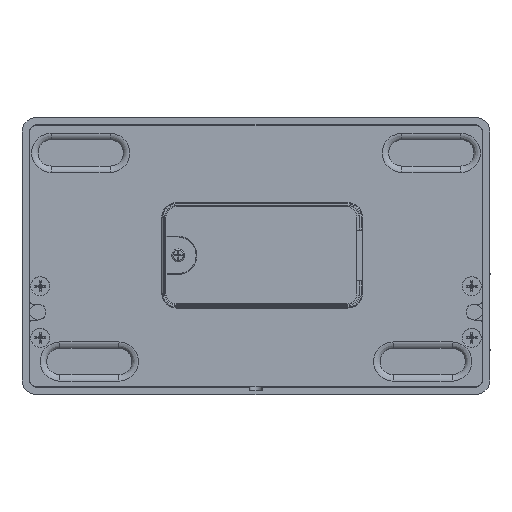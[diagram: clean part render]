
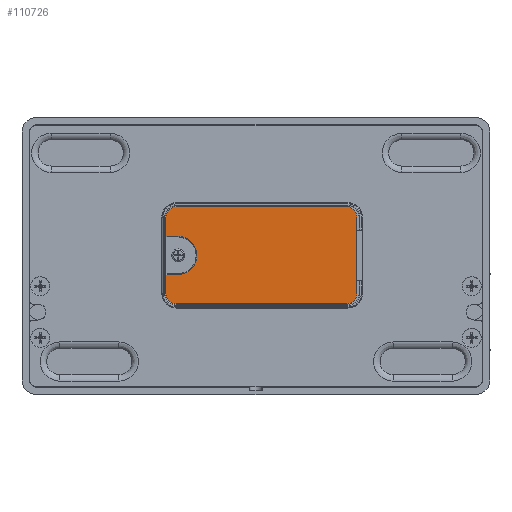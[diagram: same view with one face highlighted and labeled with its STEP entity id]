
A CAD part, front view. The second image highlights one B-rep face of the part: STEP entity #110726.
In plain terms, the highlighted planar face has unit normal (0, -1, 0).
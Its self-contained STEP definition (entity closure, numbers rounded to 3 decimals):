
#3361 = CARTESIAN_POINT ( 'NONE',  ( -32.35, -9.7, -68.99 ) ) ;
#3900 = CARTESIAN_POINT ( 'NONE',  ( -36.75, -9.7, -73.19 ) ) ;
#5102 = VECTOR ( 'NONE', #123197, 1000. ) ;
#5278 = VECTOR ( 'NONE', #91164, 1000. ) ;
#5599 = DIRECTION ( 'NONE',  ( -1., 0., 0. ) ) ;
#5646 = EDGE_CURVE ( 'NONE', #21998, #64694, #36560, .T. ) ;
#6575 = ORIENTED_EDGE ( 'NONE', *, *, #92670, .F. ) ;
#6804 = ORIENTED_EDGE ( 'NONE', *, *, #42980, .F. ) ;
#8957 = CARTESIAN_POINT ( 'NONE',  ( -36.55, -9.7, -37.99 ) ) ;
#9933 = CARTESIAN_POINT ( 'NONE',  ( -36.55, -9.7, -73.39 ) ) ;
#10432 = CARTESIAN_POINT ( 'NONE',  ( -31.8, -9.7, -61.29 ) ) ;
#13384 = CIRCLE ( 'NONE', #51661, 4.2 ) ;
#16926 = EDGE_CURVE ( 'NONE', #70286, #35434, #95275, .T. ) ;
#17009 = LINE ( 'NONE', #31813, #101950 ) ;
#17360 = CARTESIAN_POINT ( 'NONE',  ( -31.8, -9.7, -45.69 ) ) ;
#21385 = VECTOR ( 'NONE', #48121, 1000. ) ;
#21793 = DIRECTION ( 'NONE',  ( 0., 0., -1. ) ) ;
#21802 = VECTOR ( 'NONE', #104514, 1000. ) ;
#21915 = CARTESIAN_POINT ( 'NONE',  ( 36.75, -9.7, -33.79 ) ) ;
#21998 = VERTEX_POINT ( 'NONE', #8957 ) ;
#22350 = CARTESIAN_POINT ( 'NONE',  ( -36.55, -9.7, -68.99 ) ) ;
#24537 = ORIENTED_EDGE ( 'NONE', *, *, #56239, .F. ) ;
#26786 = FACE_OUTER_BOUND ( 'NONE', #102859, .T. ) ;
#27343 = PLANE ( 'NONE',  #32568 ) ;
#28506 = ORIENTED_EDGE ( 'NONE', *, *, #79420, .F. ) ;
#29890 = DIRECTION ( 'NONE',  ( 0., 1., 0. ) ) ;
#30348 = CARTESIAN_POINT ( 'NONE',  ( -36.55, -9.7, -45.69 ) ) ;
#31813 = CARTESIAN_POINT ( 'NONE',  ( -36.75, -9.7, -33.79 ) ) ;
#32568 = AXIS2_PLACEMENT_3D ( 'NONE', #128485, #138177, #5599 ) ;
#35434 = VERTEX_POINT ( 'NONE', #110281 ) ;
#36560 = CIRCLE ( 'NONE', #69028, 4.2 ) ;
#37724 = DIRECTION ( 'NONE',  ( 0., 1., 0. ) ) ;
#37905 = CARTESIAN_POINT ( 'NONE',  ( -31.8, -9.7, -61.29 ) ) ;
#38632 = CARTESIAN_POINT ( 'NONE',  ( -36.75, -9.7, -45.69 ) ) ;
#41103 = DIRECTION ( 'NONE',  ( 1., 0., 0. ) ) ;
#42980 = EDGE_CURVE ( 'NONE', #48858, #84079, #126889, .T. ) ;
#45937 = EDGE_CURVE ( 'NONE', #35434, #66301, #112684, .T. ) ;
#47660 = CARTESIAN_POINT ( 'NONE',  ( -36.55, -9.7, -73.39 ) ) ;
#47789 = CARTESIAN_POINT ( 'NONE',  ( 36.75, -9.7, -37.99 ) ) ;
#48121 = DIRECTION ( 'NONE',  ( 0., 0., 1. ) ) ;
#48671 = ORIENTED_EDGE ( 'NONE', *, *, #119675, .F. ) ;
#48724 = DIRECTION ( 'NONE',  ( 1., 0., 0. ) ) ;
#48858 = VERTEX_POINT ( 'NONE', #21915 ) ;
#49334 = EDGE_CURVE ( 'NONE', #84079, #113068, #142865, .T. ) ;
#49910 = ORIENTED_EDGE ( 'NONE', *, *, #104995, .F. ) ;
#51661 = AXIS2_PLACEMENT_3D ( 'NONE', #3361, #37724, #60524 ) ;
#52374 = CARTESIAN_POINT ( 'NONE',  ( -24., -9.7, -53.49 ) ) ;
#54357 = LINE ( 'NONE', #3900, #90797 ) ;
#54610 = VECTOR ( 'NONE', #21793, 1000. ) ;
#55711 = CARTESIAN_POINT ( 'NONE',  ( 40.95, -9.7, -73.39 ) ) ;
#56239 = EDGE_CURVE ( 'NONE', #57175, #70286, #13384, .T. ) ;
#56551 = VERTEX_POINT ( 'NONE', #30348 ) ;
#57175 = VERTEX_POINT ( 'NONE', #117197 ) ;
#58758 = CIRCLE ( 'NONE', #128392, 4.2 ) ;
#60524 = DIRECTION ( 'NONE',  ( 1., 0., 0. ) ) ;
#61995 = CARTESIAN_POINT ( 'NONE',  ( 36.75, -9.7, -68.99 ) ) ;
#63064 = VERTEX_POINT ( 'NONE', #68983 ) ;
#64050 = CARTESIAN_POINT ( 'NONE',  ( -24., -9.7, -58.059 ) ) ;
#64694 = VERTEX_POINT ( 'NONE', #79322 ) ;
#66301 = VERTEX_POINT ( 'NONE', #10432 ) ;
#66515 = LINE ( 'NONE', #47660, #21385 ) ;
#68085 = ORIENTED_EDGE ( 'NONE', *, *, #90663, .F. ) ;
#68983 = CARTESIAN_POINT ( 'NONE',  ( -31.8, -9.7, -45.69 ) ) ;
#69028 = AXIS2_PLACEMENT_3D ( 'NONE', #107430, #29890, #41103 ) ;
#69856 = DIRECTION ( 'NONE',  ( -1., 0., 0. ) ) ;
#70286 = VERTEX_POINT ( 'NONE', #22350 ) ;
#75582 = AXIS2_PLACEMENT_3D ( 'NONE', #47789, #90420, #48724 ) ;
#79322 = CARTESIAN_POINT ( 'NONE',  ( -32.35, -9.7, -33.79 ) ) ;
#79420 = EDGE_CURVE ( 'NONE', #113068, #143544, #58758, .T. ) ;
#79762 = ORIENTED_EDGE ( 'NONE', *, *, #45937, .F. ) ;
#80437 = ORIENTED_EDGE ( 'NONE', *, *, #84880, .F. ) ;
#82503 = CARTESIAN_POINT ( 'NONE',  ( -27.231, -9.7, -61.29 ) ) ;
#83343 = VERTEX_POINT ( 'NONE', #88628 ) ;
#84079 = VERTEX_POINT ( 'NONE', #135681 ) ;
#84252 = CARTESIAN_POINT ( 'NONE',  ( -24., -9.7, -48.921 ) ) ;
#84880 = EDGE_CURVE ( 'NONE', #64694, #48858, #17009, .T. ) ;
#85807 = CARTESIAN_POINT ( 'NONE',  ( 36.75, -9.7, -73.19 ) ) ;
#86099 = LINE ( 'NONE', #38632, #21802 ) ;
#88628 = CARTESIAN_POINT ( 'NONE',  ( -24., -9.7, -53.49 ) ) ;
#89229 = CARTESIAN_POINT ( 'NONE',  ( -36.75, -9.7, -61.29 ) ) ;
#90420 = DIRECTION ( 'NONE',  ( 0., 1., 0. ) ) ;
#90663 = EDGE_CURVE ( 'NONE', #63064, #56551, #86099, .T. ) ;
#90797 = VECTOR ( 'NONE', #69856, 1000. ) ;
#91164 = DIRECTION ( 'NONE',  ( 1., 0., 0. ) ) ;
#92670 = EDGE_CURVE ( 'NONE', #83343, #63064, #141101, .T. ) ;
#95275 = LINE ( 'NONE', #9933, #5102 ) ;
#95363 = DIRECTION ( 'NONE',  ( 0., 1., 0. ) ) ;
#101589 = ORIENTED_EDGE ( 'NONE', *, *, #16926, .F. ) ;
#101950 = VECTOR ( 'NONE', #109370, 1000. ) ;
#102859 = EDGE_LOOP ( 'NONE', ( #79762, #101589, #24537, #48671, #28506, #120275, #6804, #80437, #124305, #141142, #68085, #6575, #49910 ) ) ;
#104514 = DIRECTION ( 'NONE',  ( -1., 0., 0. ) ) ;
#104995 = EDGE_CURVE ( 'NONE', #66301, #83343, #134671, .T. ) ;
#107430 = CARTESIAN_POINT ( 'NONE',  ( -32.35, -9.7, -37.99 ) ) ;
#107918 = CARTESIAN_POINT ( 'NONE',  ( -27.231, -9.7, -45.69 ) ) ;
#109370 = DIRECTION ( 'NONE',  ( 1., 0., 0. ) ) ;
#110281 = CARTESIAN_POINT ( 'NONE',  ( -36.55, -9.7, -61.29 ) ) ;
#110726 = ADVANCED_FACE ( 'NONE', ( #26786 ), #27343, .F. ) ;
#112347 = EDGE_CURVE ( 'NONE', #56551, #21998, #66515, .T. ) ;
#112684 = LINE ( 'NONE', #89229, #5278 ) ;
#113068 = VERTEX_POINT ( 'NONE', #129634 ) ;
#116162 = DIRECTION ( 'NONE',  ( 1., 0., 0. ) ) ;
#117197 = CARTESIAN_POINT ( 'NONE',  ( -32.35, -9.7, -73.19 ) ) ;
#119675 = EDGE_CURVE ( 'NONE', #143544, #57175, #54357, .T. ) ;
#120275 = ORIENTED_EDGE ( 'NONE', *, *, #49334, .F. ) ;
#123197 = DIRECTION ( 'NONE',  ( 0., 0., 1. ) ) ;
#124305 = ORIENTED_EDGE ( 'NONE', *, *, #5646, .F. ) ;
#126889 = CIRCLE ( 'NONE', #75582, 4.2 ) ;
#127256 = CARTESIAN_POINT ( 'NONE',  ( -24., -9.7, -53.49 ) ) ;
#128392 = AXIS2_PLACEMENT_3D ( 'NONE', #61995, #95363, #116162 ) ;
#128485 = CARTESIAN_POINT ( 'NONE',  ( -36.75, -9.7, -73.39 ) ) ;
#129634 = CARTESIAN_POINT ( 'NONE',  ( 40.95, -9.7, -68.99 ) ) ;
#134671 =( BOUNDED_CURVE ( )  B_SPLINE_CURVE ( 3, ( #37905, #82503, #64050, #52374 ),
 .UNSPECIFIED., .F., .F. ) 
 B_SPLINE_CURVE_WITH_KNOTS ( ( 4, 4 ),
 ( 0., 1. ),
 .UNSPECIFIED. ) 
 CURVE ( )  GEOMETRIC_REPRESENTATION_ITEM ( )  RATIONAL_B_SPLINE_CURVE ( ( 1., 0.805, 0.805, 1. ) ) 
 REPRESENTATION_ITEM ( '' )  );
#135681 = CARTESIAN_POINT ( 'NONE',  ( 40.95, -9.7, -37.99 ) ) ;
#138177 = DIRECTION ( 'NONE',  ( 0., 1., 0. ) ) ;
#141101 =( BOUNDED_CURVE ( )  B_SPLINE_CURVE ( 3, ( #127256, #84252, #107918, #17360 ),
 .UNSPECIFIED., .F., .F. ) 
 B_SPLINE_CURVE_WITH_KNOTS ( ( 4, 4 ),
 ( 0., 1. ),
 .UNSPECIFIED. ) 
 CURVE ( )  GEOMETRIC_REPRESENTATION_ITEM ( )  RATIONAL_B_SPLINE_CURVE ( ( 1., 0.805, 0.805, 1. ) ) 
 REPRESENTATION_ITEM ( '' )  );
#141142 = ORIENTED_EDGE ( 'NONE', *, *, #112347, .F. ) ;
#142865 = LINE ( 'NONE', #55711, #54610 ) ;
#143544 = VERTEX_POINT ( 'NONE', #85807 ) ;
